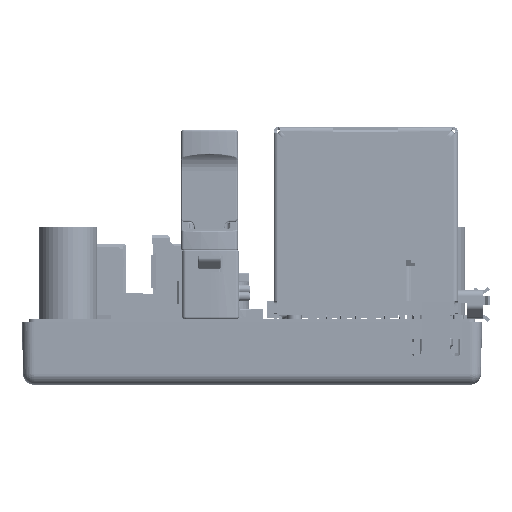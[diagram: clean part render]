
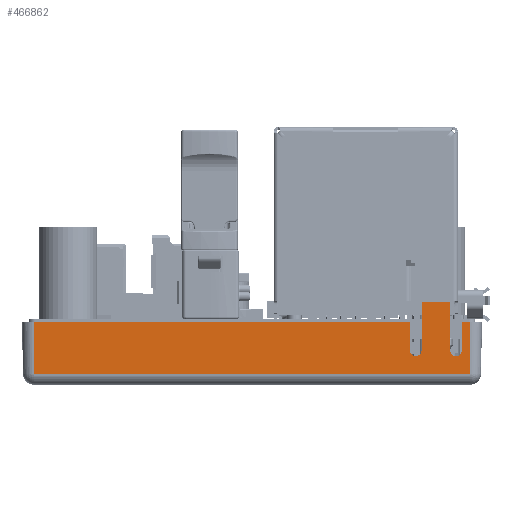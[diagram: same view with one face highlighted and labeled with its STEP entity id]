
A CAD part, left-side view. The second image highlights one B-rep face of the part: STEP entity #466862.
In plain terms, the highlighted planar face has unit normal (-1, 0, -0.018).
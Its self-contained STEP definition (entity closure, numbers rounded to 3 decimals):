
#464722=DIRECTION('',(0.,1.,0.));
#464723=VECTOR('',#464722,37.843);
#464724=CARTESIAN_POINT('',(-27.421,-18.921,
-4.517));
#464725=LINE('',#464724,#464723);
#464799=DIRECTION('',(0.,1.,0.));
#464800=VECTOR('',#464799,0.75);
#464801=CARTESIAN_POINT('',(-27.5,-19.,0.));
#464802=LINE('',#464801,#464800);
#464806=DIRECTION('',(-0.017,-0.017,1.));
#464807=VECTOR('',#464806,4.519);
#464808=CARTESIAN_POINT('',(-27.421,-18.921,
-4.517));
#464809=LINE('',#464808,#464807);
#464813=DIRECTION('',(0.017,-0.017,-1.));
#464814=VECTOR('',#464813,4.519);
#464815=CARTESIAN_POINT('',(-27.5,19.,0.));
#464816=LINE('',#464815,#464814);
#464820=DIRECTION('',(0.,1.,0.));
#464821=VECTOR('',#464820,32.75);
#464822=CARTESIAN_POINT('',(-27.5,-13.75,0.));
#464823=LINE('',#464822,#464821);
#465367=DIRECTION('',(-0.017,0.,1.));
#465368=VECTOR('',#465367,2.5);
#465369=CARTESIAN_POINT('',(-27.456,-18.25,-2.5));
#465370=LINE('',#465369,#465368);
#465446=CARTESIAN_POINT('',(-27.456,-18.25,-2.5));
#465447=CARTESIAN_POINT('',(-27.455,-18.25,-2.559));
#465448=CARTESIAN_POINT('',(-27.453,-18.229,
-2.686));
#465449=CARTESIAN_POINT('',(-27.45,-18.114,
-2.864));
#465450=CARTESIAN_POINT('',(-27.448,-17.935,
-2.979));
#465451=CARTESIAN_POINT('',(-27.447,-17.75,-3.011));
#465452=CARTESIAN_POINT('',(-27.448,-17.565,
-2.979));
#465453=CARTESIAN_POINT('',(-27.45,-17.386,
-2.864));
#465454=CARTESIAN_POINT('',(-27.453,-17.271,
-2.686));
#465455=CARTESIAN_POINT('',(-27.455,-17.25,-2.559));
#465456=CARTESIAN_POINT('',(-27.456,-17.25,-2.5));
#465468=DIRECTION('',(0.017,0.,-1.));
#465469=VECTOR('',#465468,4.201);
#465470=CARTESIAN_POINT('',(-27.53,-17.25,1.7));
#465471=LINE('',#465470,#465469);
#465510=DIRECTION('',(0.,-1.,0.));
#465511=VECTOR('',#465510,2.5);
#465512=CARTESIAN_POINT('',(-27.53,-14.75,1.7));
#465513=LINE('',#465512,#465511);
#465552=DIRECTION('',(-0.017,0.,1.));
#465553=VECTOR('',#465552,4.201);
#465554=CARTESIAN_POINT('',(-27.456,-14.75,-2.5));
#465555=LINE('',#465554,#465553);
#465629=CARTESIAN_POINT('',(-27.456,-14.75,-2.5));
#465630=CARTESIAN_POINT('',(-27.455,-14.75,-2.559));
#465631=CARTESIAN_POINT('',(-27.453,-14.729,
-2.686));
#465632=CARTESIAN_POINT('',(-27.45,-14.614,
-2.864));
#465633=CARTESIAN_POINT('',(-27.448,-14.435,
-2.979));
#465634=CARTESIAN_POINT('',(-27.447,-14.25,-3.011));
#465635=CARTESIAN_POINT('',(-27.448,-14.065,
-2.979));
#465636=CARTESIAN_POINT('',(-27.45,-13.886,
-2.864));
#465637=CARTESIAN_POINT('',(-27.453,-13.771,
-2.686));
#465638=CARTESIAN_POINT('',(-27.455,-13.75,-2.559));
#465639=CARTESIAN_POINT('',(-27.456,-13.75,-2.5));
#465658=DIRECTION('',(0.017,0.,-1.));
#465659=VECTOR('',#465658,2.5);
#465660=CARTESIAN_POINT('',(-27.5,-13.75,0.));
#465661=LINE('',#465660,#465659);
#466249=CARTESIAN_POINT('',(-27.5,19.,0.));
#466534=VERTEX_POINT('',#466249);
#466535=CARTESIAN_POINT('',(-27.5,-13.75,0.));
#466536=VERTEX_POINT('',#466535);
#466573=CARTESIAN_POINT('',(-27.5,-18.25,0.));
#466574=VERTEX_POINT('',#466573);
#466575=CARTESIAN_POINT('',(-27.5,-19.,0.));
#466576=VERTEX_POINT('',#466575);
#466603=CARTESIAN_POINT('',(-27.456,-18.25,-2.5));
#466604=VERTEX_POINT('',#466603);
#466605=VERTEX_POINT('',#465456);
#466606=CARTESIAN_POINT('',(-27.53,-17.25,1.7));
#466607=VERTEX_POINT('',#466606);
#466608=CARTESIAN_POINT('',(-27.53,-14.75,1.7));
#466609=VERTEX_POINT('',#466608);
#466610=CARTESIAN_POINT('',(-27.456,-14.75,-2.5));
#466611=VERTEX_POINT('',#466610);
#466612=VERTEX_POINT('',#465639);
#466613=CARTESIAN_POINT('',(-27.421,18.921,
-4.517));
#466614=VERTEX_POINT('',#466613);
#466615=CARTESIAN_POINT('',(-27.421,-18.921,
-4.517));
#466616=VERTEX_POINT('',#466615);
#466833=CARTESIAN_POINT('',(-27.5,-20.,0.));
#466834=DIRECTION('',(-1.,0.,-0.017));
#466835=DIRECTION('',(-0.017,0.,1.));
#466836=AXIS2_PLACEMENT_3D('',#466833,#466834,#466835);
#466837=PLANE('',#466836);
#466839=ORIENTED_EDGE('',*,*,#466838,.F.);
#466840=ORIENTED_EDGE('',*,*,#466825,.F.);
#466841=ORIENTED_EDGE('',*,*,#466772,.T.);
#466843=ORIENTED_EDGE('',*,*,#466842,.F.);
#466845=ORIENTED_EDGE('',*,*,#466844,.F.);
#466847=ORIENTED_EDGE('',*,*,#466846,.T.);
#466849=ORIENTED_EDGE('',*,*,#466848,.F.);
#466851=ORIENTED_EDGE('',*,*,#466850,.T.);
#466853=ORIENTED_EDGE('',*,*,#466852,.T.);
#466855=ORIENTED_EDGE('',*,*,#466854,.T.);
#466857=ORIENTED_EDGE('',*,*,#466856,.F.);
#466859=ORIENTED_EDGE('',*,*,#466858,.T.);
#466860=EDGE_LOOP('',(#466839,#466840,#466841,#466843,#466845,#466847,#466849,
#466851,#466853,#466855,#466857,#466859));
#466861=FACE_OUTER_BOUND('',#466860,.F.);
#466862=ADVANCED_FACE('',(#466861),#466837,.T.);
#465457=B_SPLINE_CURVE_WITH_KNOTS('',3,(#465446,#465447,#465448,#465449,#465450,
#465451,#465452,#465453,#465454,#465455,#465456),.UNSPECIFIED.,.F.,.F.,(4,1,1,1,
1,1,1,1,4),(0.,0.125,0.25,0.375,0.5,0.625,0.75,0.875,1.),
.UNSPECIFIED.);
#465640=B_SPLINE_CURVE_WITH_KNOTS('',3,(#465629,#465630,#465631,#465632,#465633,
#465634,#465635,#465636,#465637,#465638,#465639),.UNSPECIFIED.,.F.,.F.,(4,1,1,1,
1,1,1,1,4),(0.,0.125,0.25,0.375,0.5,0.625,0.75,0.875,1.),
.UNSPECIFIED.);
#466772=EDGE_CURVE('',#466616,#466614,#464725,.T.);
#466825=EDGE_CURVE('',#466616,#466576,#464809,.T.);
#466838=EDGE_CURVE('',#466576,#466574,#464802,.T.);
#466842=EDGE_CURVE('',#466534,#466614,#464816,.T.);
#466844=EDGE_CURVE('',#466536,#466534,#464823,.T.);
#466846=EDGE_CURVE('',#466536,#466612,#465661,.T.);
#466848=EDGE_CURVE('',#466611,#466612,#465640,.T.);
#466850=EDGE_CURVE('',#466611,#466609,#465555,.T.);
#466852=EDGE_CURVE('',#466609,#466607,#465513,.T.);
#466854=EDGE_CURVE('',#466607,#466605,#465471,.T.);
#466856=EDGE_CURVE('',#466604,#466605,#465457,.T.);
#466858=EDGE_CURVE('',#466604,#466574,#465370,.T.);
